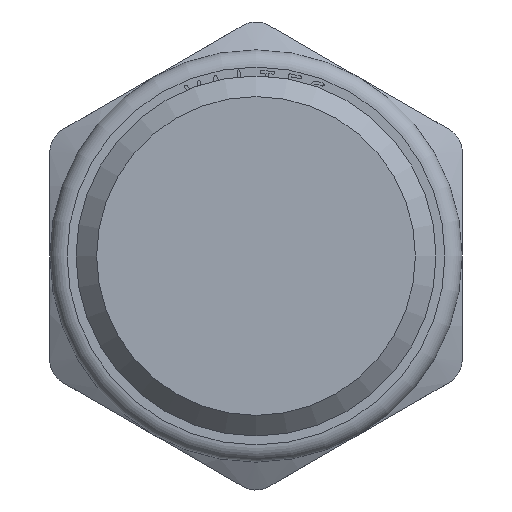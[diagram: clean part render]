
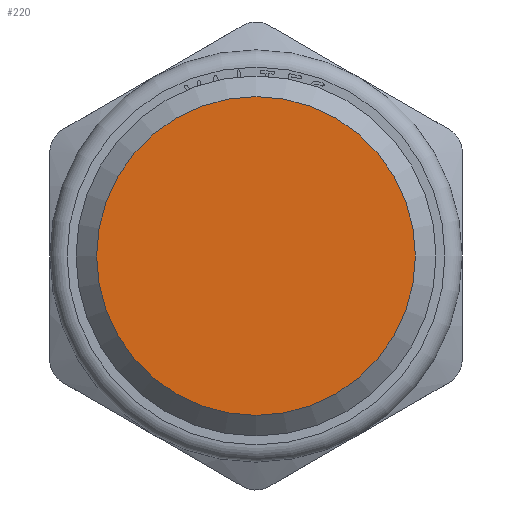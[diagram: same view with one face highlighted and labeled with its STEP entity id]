
A CAD part, front view. The second image highlights one B-rep face of the part: STEP entity #220.
In plain terms, the highlighted planar face has unit normal (0, -1, 0).
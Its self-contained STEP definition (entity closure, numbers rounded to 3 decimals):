
#220=ADVANCED_FACE('',(#1430),#1432,.T.);
#1430=FACE_BOUND('',#1431,.T.);
#1431=EDGE_LOOP('',(#2557));
#1432=PLANE('',#1433);
#1433=AXIS2_PLACEMENT_3D('',#1434,#1435,#1436);
#1434=CARTESIAN_POINT('',(0.,0.,0.));
#1435=DIRECTION('',(0.,-1.,0.));
#1436=DIRECTION('',(1.,0.,0.));
#2557=ORIENTED_EDGE('',*,*,#3011,.T.);
#3011=EDGE_CURVE('',#3767,#3767,#3768,.T.);
#3767=VERTEX_POINT('',#7138);
#3768=CIRCLE('',#7139,9.278);
#7138=CARTESIAN_POINT('',(9.278,0.,0.));
#7139=AXIS2_PLACEMENT_3D('',#7140,#7141,#7142);
#7140=CARTESIAN_POINT('',(0.,0.,0.));
#7141=DIRECTION('',(0.,-1.,0.));
#7142=DIRECTION('',(1.,0.,0.));
